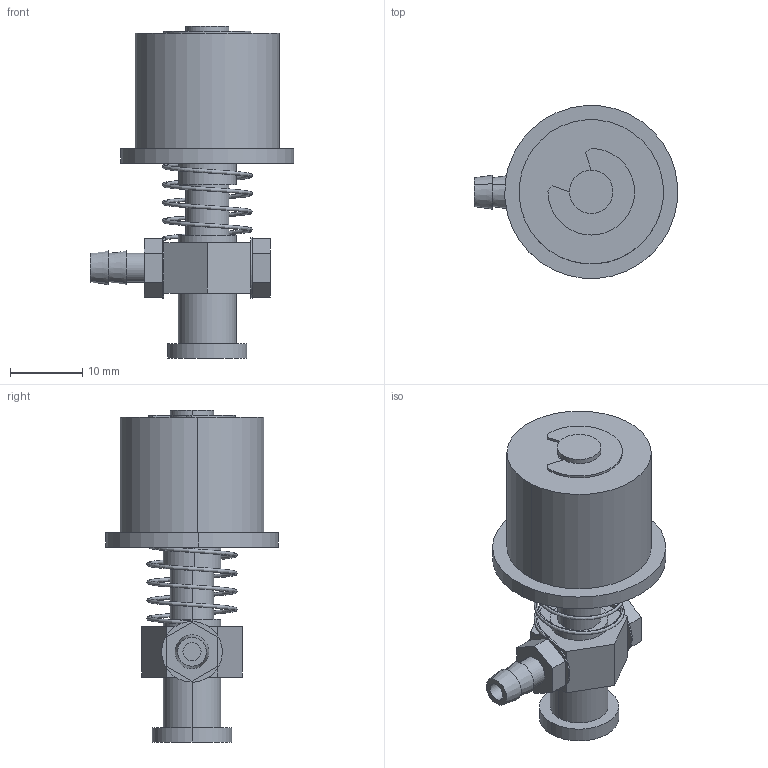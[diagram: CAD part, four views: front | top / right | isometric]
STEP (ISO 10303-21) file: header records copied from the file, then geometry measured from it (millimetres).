
FILE_DESCRIPTION (( 'STEP AP214' ), '1' );
FILE_NAME ('VFM-0520.STEP', '2019-11-16T01:53:15', ( '微软用户' ), ( '微软中国' ), 'SwSTEP 2.0', 'SolidWorks 2016', '' );
FILE_SCHEMA (( 'AUTOMOTIVE_DESIGN' ));
Length unit declared in the file: millimetre
Products named in the file (1): VFM-0520
Bounding box: 28.17 x 23.94 x 46 mm (x, y, z)
Surface area: 5408.1 mm2 (no closed solid volume)
Topology: 0 solids, 10 shells, 141 faces, 331 edges, 219 vertices
Faces by surface type: cylinder 72, plane 56, bspline 7, cone 6
Entity records: 8648 total; most frequent: CARTESIAN_POINT 3846, ORIENTED_EDGE 656, DIRECTION 625, EDGE_CURVE 329, AXIS2_PLACEMENT_3D 237, VERTEX_POINT 219, EDGE_LOOP 165, UNCERTAINTY_MEASURE_WITH_UNIT 152
